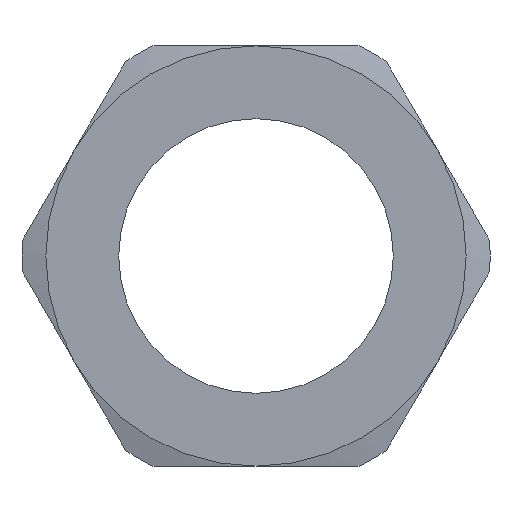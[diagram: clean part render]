
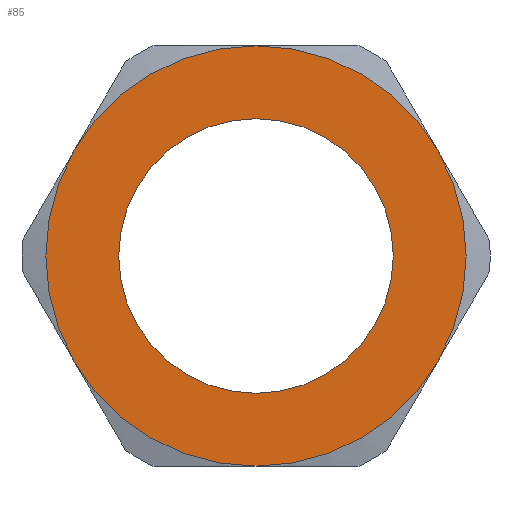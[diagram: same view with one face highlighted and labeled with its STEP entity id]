
A CAD part, left-side view. The second image highlights one B-rep face of the part: STEP entity #85.
In plain terms, the highlighted planar face has unit normal (-1, 0, 0).
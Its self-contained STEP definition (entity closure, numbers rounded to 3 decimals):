
#85 = ADVANCED_FACE( '', ( #123, #124 ), #125, .F. );
#123 = FACE_OUTER_BOUND( '', #180, .T. );
#124 = FACE_BOUND( '', #181, .T. );
#125 = PLANE( '', #182 );
#180 = EDGE_LOOP( '', ( #297, #298, #299, #300, #301, #302 ) );
#181 = EDGE_LOOP( '', ( #303 ) );
#182 = AXIS2_PLACEMENT_3D( '', #304, #305, #306 );
#297 = ORIENTED_EDGE( '', *, *, #459, .F. );
#298 = ORIENTED_EDGE( '', *, *, #461, .F. );
#299 = ORIENTED_EDGE( '', *, *, #462, .F. );
#300 = ORIENTED_EDGE( '', *, *, #463, .F. );
#301 = ORIENTED_EDGE( '', *, *, #455, .F. );
#302 = ORIENTED_EDGE( '', *, *, #457, .F. );
#303 = ORIENTED_EDGE( '', *, *, #464, .T. );
#304 = CARTESIAN_POINT( '', ( 0., 0., 0. ) );
#305 = DIRECTION( '', ( 1., 0., 0. ) );
#306 = DIRECTION( '', ( 0., 0., -1. ) );
#455 = EDGE_CURVE( '', #493, #548, #549, .T. );
#457 = EDGE_CURVE( '', #543, #493, #551, .T. );
#459 = EDGE_CURVE( '', #534, #543, #553, .T. );
#461 = EDGE_CURVE( '', #513, #534, #555, .T. );
#462 = EDGE_CURVE( '', #525, #513, #556, .T. );
#463 = EDGE_CURVE( '', #548, #525, #557, .T. );
#464 = EDGE_CURVE( '', #558, #558, #559, .T. );
#493 = VERTEX_POINT( '', #603 );
#513 = VERTEX_POINT( '', #647 );
#525 = VERTEX_POINT( '', #675 );
#534 = VERTEX_POINT( '', #695 );
#543 = VERTEX_POINT( '', #715 );
#548 = VERTEX_POINT( '', #726 );
#549 = CIRCLE( '', #727, 11. );
#551 = CIRCLE( '', #732, 11. );
#553 = CIRCLE( '', #734, 11. );
#555 = CIRCLE( '', #736, 11. );
#556 = CIRCLE( '', #737, 11. );
#557 = CIRCLE( '', #738, 11. );
#558 = VERTEX_POINT( '', #739 );
#559 = CIRCLE( '', #740, 7.188 );
#603 = CARTESIAN_POINT( '', ( 0., 0., 11. ) );
#647 = CARTESIAN_POINT( '', ( 0., 0., -11. ) );
#675 = CARTESIAN_POINT( '', ( 0., -9.526, -5.5 ) );
#695 = CARTESIAN_POINT( '', ( 0., 9.526, -5.5 ) );
#715 = CARTESIAN_POINT( '', ( 0., 9.526, 5.5 ) );
#726 = CARTESIAN_POINT( '', ( 0., -9.526, 5.5 ) );
#727 = AXIS2_PLACEMENT_3D( '', #795, #796, #797 );
#732 = AXIS2_PLACEMENT_3D( '', #798, #799, #800 );
#734 = AXIS2_PLACEMENT_3D( '', #804, #805, #806 );
#736 = AXIS2_PLACEMENT_3D( '', #810, #811, #812 );
#737 = AXIS2_PLACEMENT_3D( '', #813, #814, #815 );
#738 = AXIS2_PLACEMENT_3D( '', #816, #817, #818 );
#739 = CARTESIAN_POINT( '', ( 0., 0., -7.188 ) );
#740 = AXIS2_PLACEMENT_3D( '', #819, #820, #821 );
#795 = CARTESIAN_POINT( '', ( 0., 0., 0. ) );
#796 = DIRECTION( '', ( 1., 0., 0. ) );
#797 = DIRECTION( '', ( 0., 0., -1. ) );
#798 = CARTESIAN_POINT( '', ( 0., 0., 0. ) );
#799 = DIRECTION( '', ( 1., 0., 0. ) );
#800 = DIRECTION( '', ( 0., 0., -1. ) );
#804 = CARTESIAN_POINT( '', ( 0., 0., 0. ) );
#805 = DIRECTION( '', ( 1., 0., 0. ) );
#806 = DIRECTION( '', ( 0., 0., -1. ) );
#810 = CARTESIAN_POINT( '', ( 0., 0., 0. ) );
#811 = DIRECTION( '', ( 1., 0., 0. ) );
#812 = DIRECTION( '', ( 0., 0., -1. ) );
#813 = CARTESIAN_POINT( '', ( 0., 0., 0. ) );
#814 = DIRECTION( '', ( 1., 0., 0. ) );
#815 = DIRECTION( '', ( 0., 0., -1. ) );
#816 = CARTESIAN_POINT( '', ( 0., 0., 0. ) );
#817 = DIRECTION( '', ( 1., 0., 0. ) );
#818 = DIRECTION( '', ( 0., 0., -1. ) );
#819 = CARTESIAN_POINT( '', ( 0., 0., 0. ) );
#820 = DIRECTION( '', ( 1., 0., 0. ) );
#821 = DIRECTION( '', ( 0., 0., -1. ) );
